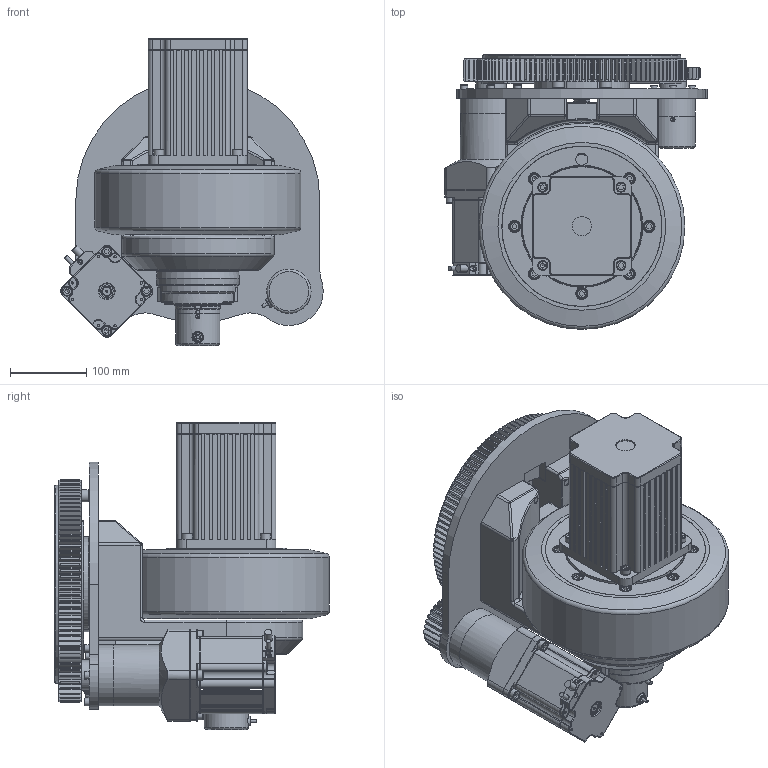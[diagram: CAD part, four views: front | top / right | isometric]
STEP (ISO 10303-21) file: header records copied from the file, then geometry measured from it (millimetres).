
FILE_DESCRIPTION (( 'STEP AP214' ), '1' );
FILE_NAME ('拏宒嗆謫ZLW-360-20008-5008.STEP', '2019-05-14T01:43:27', ( '' ), ( '' ), 'SwSTEP 2.0', 'SolidWorks 2016', '' );
FILE_SCHEMA (( 'AUTOMOTIVE_DESIGN' ));
Length unit declared in the file: millimetre
Products named in the file (1): 拏宒嗆謫ZLW-360-20008-5008
Bounding box: 343.97 x 360 x 402.5 mm (x, y, z)
Surface area: 1106511.2 mm2 (no closed solid volume)
Topology: 0 solids, 144 shells, 2249 faces, 7112 edges, 4858 vertices
Faces by surface type: cylinder 997, plane 731, cone 359, torus 97, bspline 60, sphere 5
Full cylindrical faces by diameter (mm): 3 x6, 3.3 x5, 4 x3, 4.5 x2, 4.7 x3, 5 x5, 5.1 x2, 5.54 x4, 6 x2, 6.25 x1, 6.5 x1, 8 x5, 8.5 x21, 9.43 x1, 9.5 x1, 10 x7, 13 x11, 15 x7, 16 x2, 16.7 x1, 18 x8, 19.8 x1, 20 x6, 25 x2, 35 x1, 38 x2, 40 x1, 42 x1, 55 x1, 58 x4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
Entity records: 115202 total; most frequent: CARTESIAN_POINT 30023, DIRECTION 13003, ORIENTED_EDGE 11079, EDGE_CURVE 6741, AXIS2_PLACEMENT_3D 4991, VERTEX_POINT 4779, LINE 3021, VECTOR 3021
